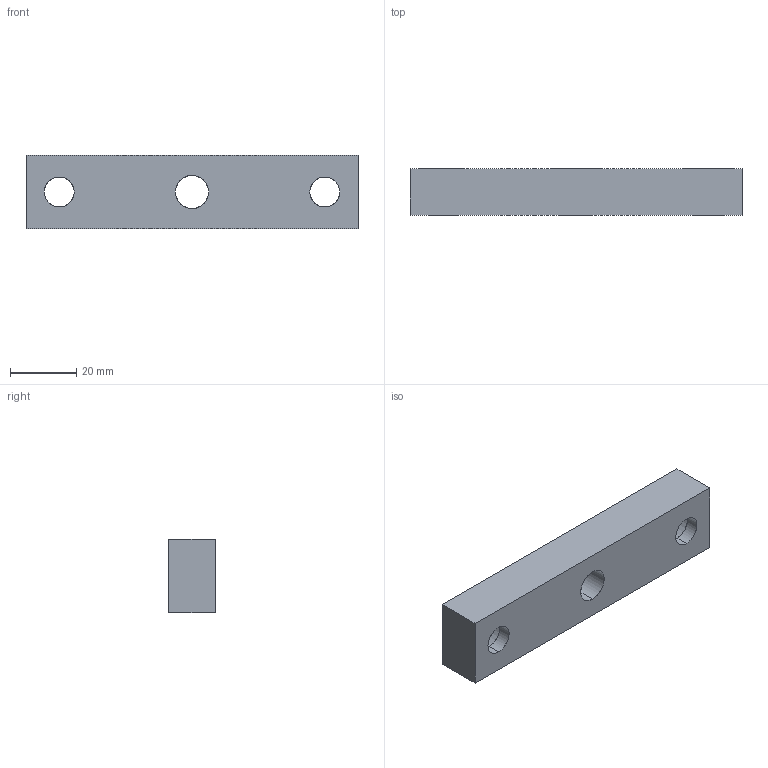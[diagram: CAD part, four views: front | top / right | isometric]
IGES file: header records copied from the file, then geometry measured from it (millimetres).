
Start section: START RECORD GO HERE.
Global section: file name: 761-014100.igs; native system: DASSAULT SYSTEMES CATIA V5 R20 - www.3ds.com; preprocessor: CATIA Version 5 Release 20 ; author: Utente; organization: NB04-ASUS; date: 20200411.201413; units: millimetre
Bounding box: 100 x 14 x 22 mm (x, y, z)
Surface area: 9107.2 mm2 (no closed solid volume)
Topology: 0 solids, 0 shells, 21 faces, 96 edges, 96 vertices
Faces by surface type: revolution 12, extrusion 9
